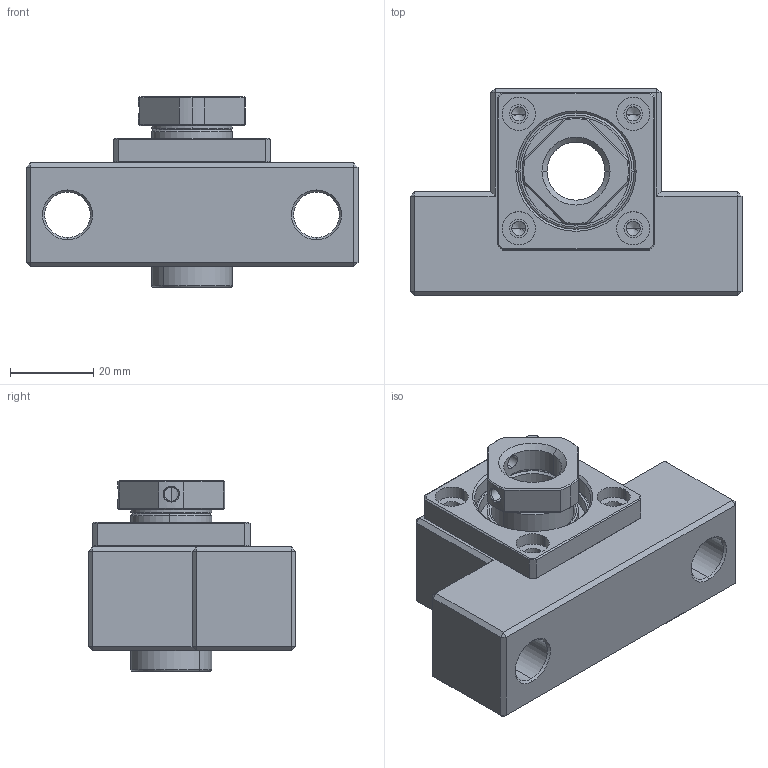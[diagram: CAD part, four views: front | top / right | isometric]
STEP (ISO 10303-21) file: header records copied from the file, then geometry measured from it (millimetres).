
FILE_DESCRIPTION (( 'STEP AP203' ), '1' );
FILE_NAME ('EK15²Õ¦X.STEP', '2014-05-08T07:21:06', ( '' ), ( '' ), 'SwSTEP 2.0', 'SolidWorks 2014', '' );
FILE_SCHEMA (( 'CONFIG_CONTROL_DESIGN' ));
Length unit declared in the file: millimetre
Products named in the file (1): EK15組合
Bounding box: 80 x 50 x 46 mm (x, y, z)
Volume: 68491.3 mm3; surface area: 34416.9 mm2
Topology: 35 solids, 35 shells, 410 faces, 931 edges, 549 vertices
Faces by surface type: cylinder 103, plane 99, torus 90, cone 66, sphere 48, bspline 4
Entity records: 10993 total; most frequent: CARTESIAN_POINT 2205, DIRECTION 2044, ORIENTED_EDGE 1606, AXIS2_PLACEMENT_3D 882, EDGE_CURVE 803, VERTEX_POINT 477, CIRCLE 475, EDGE_LOOP 462
